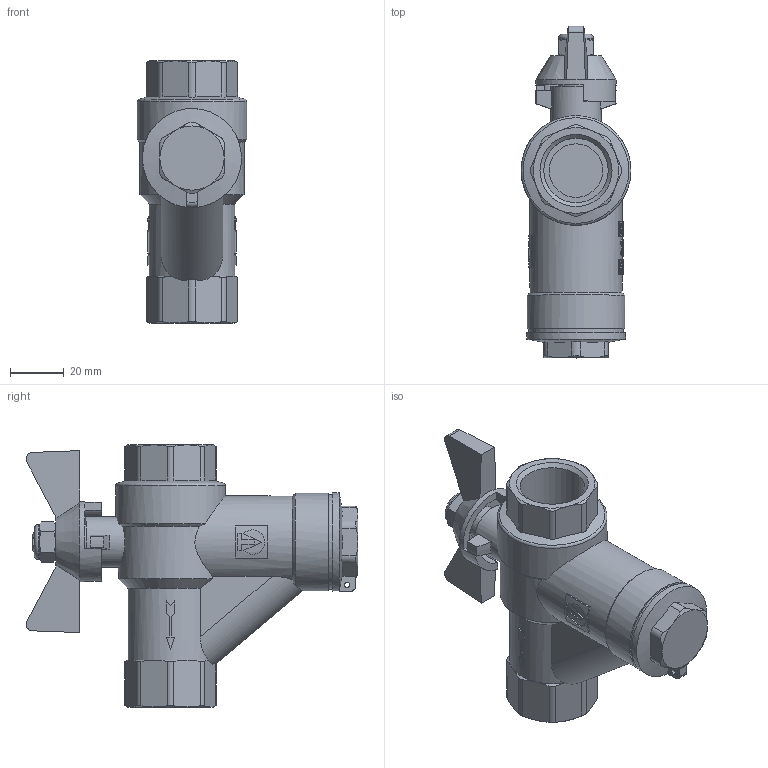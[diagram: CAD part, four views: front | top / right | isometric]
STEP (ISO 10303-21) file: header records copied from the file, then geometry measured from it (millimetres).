
FILE_DESCRIPTION(('STEP AP203'), '1');
FILE_NAME('VT.294.N.05', '2026-02-10T09:20:26', ('VerevichevVA'), ('Vesta'), 'C3D Converter', 'C3D Toolkit', '');
FILE_SCHEMA(('CONFIG_CONTROL_DESIGN'));
Length unit declared in the file: millimetre
Products named in the file (1): ВР.491812.038.000 СБ
Bounding box: 41 x 124 x 98 mm (x, y, z)
Volume: 136069.9 mm3; surface area: 33105.9 mm2
Topology: 1 solids, 3 shells, 599 faces, 1638 edges, 1078 vertices
Faces by surface type: plane 467, cylinder 77, cone 52, torus 3
Full cylindrical faces by diameter (mm): 2 x1, 13 x2, 17 x1, 19 x1, 20 x1, 24 x1, 24.118 x2, 30 x1, 35.3 x1, 35.5 x1, 36.5 x1, 37 x1, 41 x1
Entity records: 24185 total; most frequent: CARTESIAN_POINT 11126, ORIENTED_EDGE 3218, DIRECTION 2209, EDGE_CURVE 1609, VERTEX_POINT 1076, AXIS2_PLACEMENT_3D 804, EDGE_LOOP 659, FACE_BOUND 624
